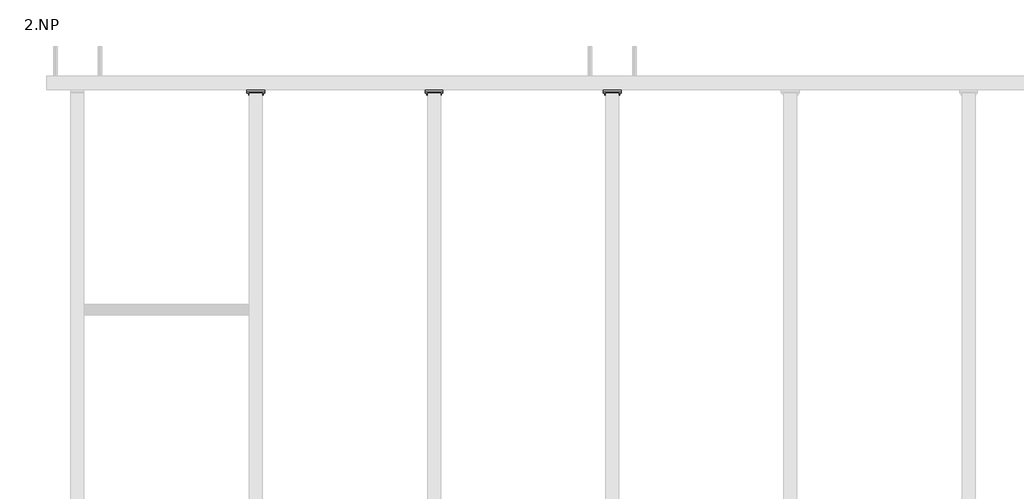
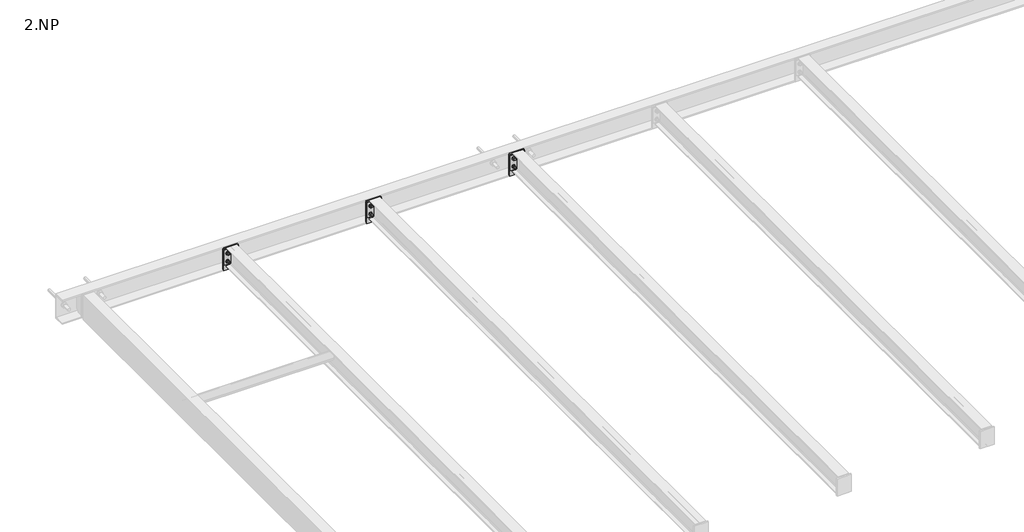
# One storey, part 9 of 18: 11 proxies.
"""IFC4 building model written with IfcOpenShell, lengths in millimetres."""

import ifcopenshell
import ifcopenshell.guid

model = None  # the IFC model being written
_history = None  # IfcOwnerHistory: only IFC2X3 demands one
_inside = {}  # id of a spatial element -> (the spatial element, [elements in it])
_under = {}  # id of a project, library or spatial element -> (it, [spatial elements below it])
_declared = {}  # id of a project -> (the project, [libraries it declares])
_typed = {}  # id of a type object -> (the type object, [elements of that type])
_made_of = {}  # id of a material, layer set ... -> (it, [elements and type objects made of it])


def new_model(schema):
    """Start an empty IFC model of exactly this schema.

    Asked for "IFC4X3", IfcOpenShell would pick the latest addendum, in which some entities
    have other attributes; the version numbers below select the first issue.
    IFC2X3 requires an IfcOwnerHistory on every rooted entity: one is made here for all.
    """
    global model, _history
    if schema == "IFC4X3":
        model = ifcopenshell.file(schema_version=(4, 3, 0, 0))
    else:
        model = ifcopenshell.file(schema=schema)
    _inside.clear()
    _under.clear()
    _declared.clear()
    _typed.clear()
    _made_of.clear()
    _history = None
    if model.schema == "IFC2X3":
        org = make("IfcOrganization", Name="unknown")
        user = make(
            "IfcPersonAndOrganization",
            ThePerson=make("IfcPerson", FamilyName="unknown"),
            TheOrganization=org,
        )
        app = make(
            "IfcApplication",
            ApplicationDeveloper=org,
            Version="unknown",
            ApplicationFullName="unknown",
            ApplicationIdentifier="unknown",
        )
        _history = make(
            "IfcOwnerHistory",
            OwningUser=user,
            OwningApplication=app,
            ChangeAction="ADDED",
            CreationDate=0,
        )
    return model


def make(cls, **values):
    """One entity of the class cls with the attributes given. An attribute that is None is left unset."""
    return model.create_entity(
        cls, **{name: value for name, value in values.items() if value is not None}
    )


def rooted(cls, **values):
    """An entity with a GlobalId (a new one), such as an element, a storey or a relation."""
    return make(cls, GlobalId=ifcopenshell.guid.new(), OwnerHistory=_history, **values)


def si_unit(unit_type, name, prefix=None):
    """IfcSIUnit, for example si_unit("LENGTHUNIT", "METRE", prefix="MILLI")."""
    return make("IfcSIUnit", UnitType=unit_type, Prefix=prefix, Name=name)


def assignment(units):
    """IfcUnitAssignment: the units of a project."""
    return None if units is None else make("IfcUnitAssignment", Units=units)


def point(xyz):
    """IfcCartesianPoint."""
    return None if xyz is None else make("IfcCartesianPoint", Coordinates=xyz)


def direction(xyz):
    """IfcDirection."""
    return None if xyz is None else make("IfcDirection", DirectionRatios=xyz)


def frame(location, z_axis=None, x_axis=None):
    """IfcAxis2Placement3D, a coordinate frame: its origin and axes. An axis left out is left unset."""
    return make(
        "IfcAxis2Placement3D",
        Location=point(location),
        Axis=direction(z_axis),
        RefDirection=direction(x_axis),
    )


def frame_2d(location, x_axis=None):
    """IfcAxis2Placement2D, a coordinate frame in the plane: its origin and x axis."""
    return make(
        "IfcAxis2Placement2D", Location=point(location), RefDirection=direction(x_axis)
    )


def origin():
    """The frame at (0, 0, 0) with its axes left unset."""
    return frame((0.0, 0.0, 0.0))


def place(relative_to, where):
    """IfcLocalPlacement: puts the frame where relative to a parent placement (None: the world)."""
    return make(
        "IfcLocalPlacement", PlacementRelTo=relative_to, RelativePlacement=where
    )


def context(
    kind, dimensions, precision=None, world=None, true_north=None, identifier=None
):
    """IfcGeometricRepresentationContext, for example the 3D "Model" context."""
    return make(
        "IfcGeometricRepresentationContext",
        ContextIdentifier=identifier,
        ContextType=kind,
        CoordinateSpaceDimension=dimensions,
        Precision=precision,
        WorldCoordinateSystem=world,
        TrueNorth=true_north,
    )


def project(units=None, contexts=None):
    """IfcProject with its units and contexts."""
    return rooted(
        "IfcProject",
        Name="project",
        RepresentationContexts=contexts,
        UnitsInContext=assignment(units),
    )


def spatial(cls, under=None, at=None, **own):
    """A site, building, storey or space (cls), placed at a placement, below another one or the project."""
    s = rooted(cls, ObjectPlacement=at, **own)
    if under is not None:
        _under.setdefault(under.id(), (under, []))[1].append(s)
    return s


def polyline(points):
    """IfcPolyline through the points."""
    return make("IfcPolyline", Points=[point(p) for p in points])


def circle_curve(where, radius):
    """IfcCircle in the frame where."""
    return make("IfcCircle", Position=where, Radius=radius)


def trimmed(basis, trim1, trim2, sense, master):
    """IfcTrimmedCurve: the piece of a basis curve between two trims."""
    return make(
        "IfcTrimmedCurve",
        BasisCurve=basis,
        Trim1=trim1,
        Trim2=trim2,
        SenseAgreement=sense,
        MasterRepresentation=master,
    )


def segment(curve, same_sense, transition):
    """IfcCompositeCurveSegment."""
    return make(
        "IfcCompositeCurveSegment",
        Transition=transition,
        SameSense=same_sense,
        ParentCurve=curve,
    )


def composite_curve(segments, self_intersect=None):
    """IfcCompositeCurve: segments joined end to end."""
    return make("IfcCompositeCurve", Segments=segments, SelfIntersect=self_intersect)


def outline(outer, holes=None, kind="AREA"):
    """IfcArbitraryClosedProfileDef: a profile drawn as a closed curve; with holes, ...WithVoids."""
    if holes is None:
        return make("IfcArbitraryClosedProfileDef", ProfileType=kind, OuterCurve=outer)
    return make(
        "IfcArbitraryProfileDefWithVoids",
        ProfileType=kind,
        OuterCurve=outer,
        InnerCurves=holes,
    )


def extrude(swept, where, along, depth):
    """IfcExtrudedAreaSolid: the profile swept, set in the frame where, extruded along a direction by depth."""
    return make(
        "IfcExtrudedAreaSolid",
        SweptArea=swept,
        Position=where,
        ExtrudedDirection=direction(along),
        Depth=depth,
    )


def shape(context_of_items, identifier, shape_type, items):
    """IfcShapeRepresentation: the items that make up one representation, for example the "Body"."""
    return make(
        "IfcShapeRepresentation",
        ContextOfItems=context_of_items,
        RepresentationIdentifier=identifier,
        RepresentationType=shape_type,
        Items=items,
    )


def made_of(thing, what):
    """Note that an element or type object is made of a material, layer set ...; save() writes the relation."""
    if what is not None:
        _made_of.setdefault(what.id(), (what, []))[1].append(thing)
    return thing


def element(
    cls,
    number,
    at=None,
    inside=None,
    cuts=None,
    type_object=None,
    material=None,
    context=None,
    identifier="Body",
    shape_type=None,
    held_by="IfcProductDefinitionShape",
    body=None,
    shapes=None,
    **own,
):
    """One element of the class cls, such as IfcWall. Its Tag is "e" and its number.

    at: its placement. inside: the storey or other place that contains it. cuts: it is an
    opening in that element (IfcRelVoidsElement). A single representation is given by context,
    identifier, shape_type and body (its items); several are given by shapes. held_by: the class
    of the entity that holds the representations. save() writes the other relations.
    """
    e = rooted(cls, Tag="e%d" % number, ObjectPlacement=at, **own)
    if body is not None:
        shapes = [shape(context, identifier, shape_type, body)]
    if shapes is not None:
        e.Representation = make(held_by, Representations=shapes)
    if inside is not None:
        _inside.setdefault(inside.id(), (inside, []))[1].append(e)
    if cuts is not None:
        rooted(
            "IfcRelVoidsElement", RelatingBuildingElement=cuts, RelatedOpeningElement=e
        )
    if type_object is not None:
        _typed.setdefault(type_object.id(), (type_object, []))[1].append(e)
    return made_of(e, material)


def aggregate(whole, parts):
    """IfcRelAggregates: a whole, such as a stair, and the parts it consists of."""
    return rooted("IfcRelAggregates", RelatingObject=whole, RelatedObjects=parts)


def save(model, path):
    """Write the relations noted so far, then the file.

    IfcRelAggregates (storeys below a building ...), IfcRelContainedInSpatialStructure (elements
    in a storey), IfcRelDefinesByType, IfcRelAssociatesMaterial and IfcRelDeclares: one each for
    every whole, place, type object, material and project.
    """
    for whole, parts in _under.values():
        aggregate(whole, parts)
    for where, things in _inside.values():
        rooted(
            "IfcRelContainedInSpatialStructure",
            RelatedElements=things,
            RelatingStructure=where,
        )
    for kind, things in _typed.values():
        rooted("IfcRelDefinesByType", RelatedObjects=things, RelatingType=kind)
    for what, things in _made_of.values():
        rooted("IfcRelAssociatesMaterial", RelatedObjects=things, RelatingMaterial=what)
    for by, libraries in _declared.values():
        rooted("IfcRelDeclares", RelatingContext=by, RelatedDefinitions=libraries)
    model.write(path)


model = new_model("IFC4")

# Units and contexts
model_context = context("Model", 3, world=origin())
ifc_project = project(units=[si_unit("LENGTHUNIT", "METRE", prefix="MILLI")], contexts=[model_context])

# Site, building, storey
site = spatial("IfcSite", under=ifc_project)
building = spatial("IfcBuilding", under=site)
storey = spatial("IfcBuildingStorey", under=building, Name="2.NP", Elevation=3000.0)

# Proxies
placement = place(None, origin())
element("IfcBuildingElementProxy", 1, Name="PLECH", ObjectType="PLECH", at=placement, inside=storey, context=model_context, shape_type="SweptSolid", body=[
    extrude(outline(polyline([(3000.0, 3775.0), (3100.0, 3775.0), (3100.0, 3767.0), (3000.0, 3767.0), (3000.0, 3775.0)])), frame((0.0, 0.0, 3175.0), z_axis=(0.0, 0.0, 1.0), x_axis=(1.0, 0.0, 0.0)), (0.0, 0.0, 1.0), 110.0),
])
element("IfcBuildingElementProxy", 2, Name="PLECH", ObjectType="PLECH", at=placement, inside=storey, context=model_context, shape_type="SweptSolid", body=[
    extrude(outline(polyline([(2000.0, 3775.0), (2100.0, 3775.0), (2100.0, 3767.0), (2000.0, 3767.0), (2000.0, 3775.0)])), frame((0.0, 0.0, 3175.0), z_axis=(0.0, 0.0, 1.0), x_axis=(1.0, 0.0, 0.0)), (0.0, 0.0, 1.0), 110.0),
])
element("IfcBuildingElementProxy", 3, Name="PLECH", ObjectType="PLECH", at=placement, inside=storey, context=model_context, shape_type="SweptSolid", body=[
    extrude(outline(polyline([(1000.0, 3775.0), (1100.0, 3775.0), (1100.0, 3767.0), (1000.0, 3767.0), (1000.0, 3775.0)])), frame((0.0, 0.0, 3175.0), z_axis=(0.0, 0.0, 1.0), x_axis=(1.0, 0.0, 0.0)), (0.0, 0.0, 1.0), 110.0),
])
element("IfcBuildingElementProxy", 4, Name="PLECH", ObjectType="PLECH", at=placement, inside=storey, context=model_context, shape_type="SweptSolid", body=[
    extrude(outline(polyline([(3000.0, 3785.0), (3100.0, 3785.0), (3100.0, 3775.0), (3000.0, 3775.0), (3000.0, 3785.0)])), frame((0.0, 0.0, 3128.0), z_axis=(0.0, 0.0, 1.0), x_axis=(1.0, 0.0, 0.0)), (0.0, 0.0, 1.0), 164.0),
])
element("IfcBuildingElementProxy", 5, Name="PLECH", ObjectType="PLECH", at=placement, inside=storey, context=model_context, shape_type="SweptSolid", body=[
    extrude(outline(polyline([(2000.0, 3785.0), (2100.0, 3785.0), (2100.0, 3775.0), (2000.0, 3775.0), (2000.0, 3785.0)])), frame((0.0, 0.0, 3128.0), z_axis=(0.0, 0.0, 1.0), x_axis=(1.0, 0.0, 0.0)), (0.0, 0.0, 1.0), 164.0),
])
element("IfcBuildingElementProxy", 6, Name="PLECH", ObjectType="PLECH", at=placement, inside=storey, context=model_context, shape_type="SweptSolid", body=[
    extrude(outline(composite_curve([segment(polyline([(3785.0, 3289.5), (3834.5, 3289.5)]), True, "CONTINUOUS"), segment(trimmed(circle_curve(frame_2d((3854.5, 3289.5)), 20.0), [point((3834.5, 3289.5))], [point((3854.5, 3269.5))], True, "CARTESIAN"), True, "CONTINUOUS"), segment(polyline([(3854.5, 3269.5), (3854.5, 3150.5)]), True, "CONTINUOUS"), segment(trimmed(circle_curve(frame_2d((3854.5, 3130.5)), 20.0), [point((3854.5, 3150.5))], [point((3834.5, 3130.5))], True, "CARTESIAN"), True, "CONTINUOUS"), segment(polyline([(3834.5, 3130.5), (3785.0, 3130.5), (3785.0, 3289.5)]), True, "CONTINUOUS")], self_intersect=False)), frame((2047.0, 0.0, 0.0), z_axis=(1.0, 0.0, 0.0), x_axis=(0.0, 1.0, 0.0)), (0.0, 0.0, 1.0), 6.0),
])
element("IfcBuildingElementProxy", 7, Name="PLECH", ObjectType="PLECH", at=placement, inside=storey, context=model_context, shape_type="SweptSolid", body=[
    extrude(outline(polyline([(1000.0, 3785.0), (1100.0, 3785.0), (1100.0, 3775.0), (1000.0, 3775.0), (1000.0, 3785.0)])), frame((0.0, 0.0, 3128.0), z_axis=(0.0, 0.0, 1.0), x_axis=(1.0, 0.0, 0.0)), (0.0, 0.0, 1.0), 164.0),
])
element("IfcBuildingElementProxy", 8, Name="PLECH", ObjectType="PLECH", at=placement, inside=storey, context=model_context, shape_type="SweptSolid", body=[
    extrude(outline(composite_curve([segment(polyline([(3785.0, 3289.5), (3834.5, 3289.5)]), True, "CONTINUOUS"), segment(trimmed(circle_curve(frame_2d((3854.5, 3289.5)), 20.0), [point((3834.5, 3289.5))], [point((3854.5, 3269.5))], True, "CARTESIAN"), True, "CONTINUOUS"), segment(polyline([(3854.5, 3269.5), (3854.5, 3150.5)]), True, "CONTINUOUS"), segment(trimmed(circle_curve(frame_2d((3854.5, 3130.5)), 20.0), [point((3854.5, 3150.5))], [point((3834.5, 3130.5))], True, "CARTESIAN"), True, "CONTINUOUS"), segment(polyline([(3834.5, 3130.5), (3785.0, 3130.5), (3785.0, 3289.5)]), True, "CONTINUOUS")], self_intersect=False)), frame((1047.0, 0.0, 0.0), z_axis=(1.0, 0.0, 0.0), x_axis=(0.0, 1.0, 0.0)), (0.0, 0.0, 1.0), 6.0),
])
element("IfcBuildingElementProxy", 9, Name="Bolt assembly", ObjectType="Bolt assembly", at=placement, inside=storey, context=model_context, shape_type="SweptSolid", body=[
    extrude(outline(composite_curve([segment(trimmed(circle_curve(frame_2d((3260.0, 3020.0)), 6.5), [point((3260.0, 3026.5))], [point((3260.0, 3013.5))], False, "CARTESIAN"), True, "CONTINUOUS"), segment(trimmed(circle_curve(frame_2d((3260.0, 3020.0)), 6.5), [point((3260.0, 3013.5))], [point((3260.0, 3026.5))], False, "CARTESIAN"), True, "CONTINUOUS")], self_intersect=False)), frame((0.0, 3774.9, 0.0), z_axis=(0.0, 1.0, 0.0), x_axis=(0.0, 0.0, 1.0)), (0.0, 0.0, 1.0), 10.0),
    extrude(outline(polyline([(3260.0, 3030.9696551), (3269.5, 3025.4848276), (3269.5, 3014.5151724), (3260.0, 3009.0303449), (3250.5, 3014.5151724), (3250.5, 3025.4848276), (3260.0, 3030.9696551)])), frame((0.0, 3787.5, 0.0), z_axis=(0.0, 1.0, 0.0), x_axis=(0.0, 0.0, 1.0)), (0.0, 0.0, 1.0), 7.5),
    extrude(outline(composite_curve([segment(trimmed(circle_curve(frame_2d((3260.0, 3020.0)), 6.0), [point((3260.0, 3026.0))], [point((3260.0, 3014.0))], False, "CARTESIAN"), True, "CONTINUOUS"), segment(trimmed(circle_curve(frame_2d((3260.0, 3020.0)), 6.0), [point((3260.0, 3014.0))], [point((3260.0, 3026.0))], False, "CARTESIAN"), True, "CONTINUOUS")], self_intersect=False)), frame((0.0, 3747.5, 0.0), z_axis=(0.0, 1.0, 0.0), x_axis=(0.0, 0.0, 1.0)), (0.0, 0.0, 1.0), 40.0),
    extrude(outline(composite_curve([segment(trimmed(circle_curve(frame_2d((3260.0, 3020.0)), 12.0), [point((3260.0, 3032.0))], [point((3260.0, 3008.0))], False, "CARTESIAN"), True, "CONTINUOUS"), segment(trimmed(circle_curve(frame_2d((3260.0, 3020.0)), 12.0), [point((3260.0, 3008.0))], [point((3260.0, 3032.0))], False, "CARTESIAN"), True, "CONTINUOUS")], self_intersect=False)), frame((0.0, 3785.0, 0.0), z_axis=(0.0, 1.0, 0.0), x_axis=(0.0, 0.0, 1.0)), (0.0, 0.0, 1.0), 2.5),
    extrude(outline(composite_curve([segment(trimmed(circle_curve(frame_2d((3260.0, 3020.0)), 12.0), [point((3260.0, 3032.0))], [point((3260.0, 3008.0))], False, "CARTESIAN"), True, "CONTINUOUS"), segment(trimmed(circle_curve(frame_2d((3260.0, 3020.0)), 12.0), [point((3260.0, 3008.0))], [point((3260.0, 3032.0))], False, "CARTESIAN"), True, "CONTINUOUS")], self_intersect=False)), frame((0.0, 3764.5, 0.0), z_axis=(0.0, 1.0, 0.0), x_axis=(0.0, 0.0, 1.0)), (0.0, 0.0, 1.0), 2.5),
    extrude(outline(polyline([(3260.0, 3030.9696551), (3269.5, 3025.4848276), (3269.5, 3014.5151724), (3260.0, 3009.0303449), (3250.5, 3014.5151724), (3250.5, 3025.4848276), (3260.0, 3030.9696551)])), frame((0.0, 3754.5, 0.0), z_axis=(0.0, 1.0, 0.0), x_axis=(0.0, 0.0, 1.0)), (0.0, 0.0, 1.0), 10.0),
    extrude(outline(composite_curve([segment(trimmed(circle_curve(frame_2d((3260.0, 3020.0)), 6.5), [point((3260.0, 3026.5))], [point((3260.0, 3013.5))], False, "CARTESIAN"), True, "CONTINUOUS"), segment(trimmed(circle_curve(frame_2d((3260.0, 3020.0)), 6.5), [point((3260.0, 3013.5))], [point((3260.0, 3026.5))], False, "CARTESIAN"), True, "CONTINUOUS")], self_intersect=False)), frame((0.0, 3767.0, 0.0), z_axis=(0.0, 1.0, 0.0), x_axis=(0.0, 0.0, 1.0)), (0.0, 0.0, 1.0), 8.1),
    extrude(outline(composite_curve([segment(trimmed(circle_curve(frame_2d((3260.0, 3080.0)), 6.5), [point((3260.0, 3086.5))], [point((3260.0, 3073.5))], False, "CARTESIAN"), True, "CONTINUOUS"), segment(trimmed(circle_curve(frame_2d((3260.0, 3080.0)), 6.5), [point((3260.0, 3073.5))], [point((3260.0, 3086.5))], False, "CARTESIAN"), True, "CONTINUOUS")], self_intersect=False)), frame((0.0, 3774.9, 0.0), z_axis=(0.0, 1.0, 0.0), x_axis=(0.0, 0.0, 1.0)), (0.0, 0.0, 1.0), 10.0),
    extrude(outline(polyline([(3260.0, 3090.9696551), (3269.5, 3085.4848276), (3269.5, 3074.5151724), (3260.0, 3069.0303449), (3250.5, 3074.5151724), (3250.5, 3085.4848276), (3260.0, 3090.9696551)])), frame((0.0, 3787.5, 0.0), z_axis=(0.0, 1.0, 0.0), x_axis=(0.0, 0.0, 1.0)), (0.0, 0.0, 1.0), 7.5),
    extrude(outline(composite_curve([segment(trimmed(circle_curve(frame_2d((3260.0, 3080.0)), 6.0), [point((3260.0, 3086.0))], [point((3260.0, 3074.0))], False, "CARTESIAN"), True, "CONTINUOUS"), segment(trimmed(circle_curve(frame_2d((3260.0, 3080.0)), 6.0), [point((3260.0, 3074.0))], [point((3260.0, 3086.0))], False, "CARTESIAN"), True, "CONTINUOUS")], self_intersect=False)), frame((0.0, 3747.5, 0.0), z_axis=(0.0, 1.0, 0.0), x_axis=(0.0, 0.0, 1.0)), (0.0, 0.0, 1.0), 40.0),
    extrude(outline(composite_curve([segment(trimmed(circle_curve(frame_2d((3260.0, 3080.0)), 12.0), [point((3260.0, 3092.0))], [point((3260.0, 3068.0))], False, "CARTESIAN"), True, "CONTINUOUS"), segment(trimmed(circle_curve(frame_2d((3260.0, 3080.0)), 12.0), [point((3260.0, 3068.0))], [point((3260.0, 3092.0))], False, "CARTESIAN"), True, "CONTINUOUS")], self_intersect=False)), frame((0.0, 3785.0, 0.0), z_axis=(0.0, 1.0, 0.0), x_axis=(0.0, 0.0, 1.0)), (0.0, 0.0, 1.0), 2.5),
    extrude(outline(composite_curve([segment(trimmed(circle_curve(frame_2d((3260.0, 3080.0)), 12.0), [point((3260.0, 3092.0))], [point((3260.0, 3068.0))], False, "CARTESIAN"), True, "CONTINUOUS"), segment(trimmed(circle_curve(frame_2d((3260.0, 3080.0)), 12.0), [point((3260.0, 3068.0))], [point((3260.0, 3092.0))], False, "CARTESIAN"), True, "CONTINUOUS")], self_intersect=False)), frame((0.0, 3764.5, 0.0), z_axis=(0.0, 1.0, 0.0), x_axis=(0.0, 0.0, 1.0)), (0.0, 0.0, 1.0), 2.5),
    extrude(outline(polyline([(3260.0, 3090.9696551), (3269.5, 3085.4848276), (3269.5, 3074.5151724), (3260.0, 3069.0303449), (3250.5, 3074.5151724), (3250.5, 3085.4848276), (3260.0, 3090.9696551)])), frame((0.0, 3754.5, 0.0), z_axis=(0.0, 1.0, 0.0), x_axis=(0.0, 0.0, 1.0)), (0.0, 0.0, 1.0), 10.0),
    extrude(outline(composite_curve([segment(trimmed(circle_curve(frame_2d((3260.0, 3080.0)), 6.5), [point((3260.0, 3086.5))], [point((3260.0, 3073.5))], False, "CARTESIAN"), True, "CONTINUOUS"), segment(trimmed(circle_curve(frame_2d((3260.0, 3080.0)), 6.5), [point((3260.0, 3073.5))], [point((3260.0, 3086.5))], False, "CARTESIAN"), True, "CONTINUOUS")], self_intersect=False)), frame((0.0, 3767.0, 0.0), z_axis=(0.0, 1.0, 0.0), x_axis=(0.0, 0.0, 1.0)), (0.0, 0.0, 1.0), 8.1),
    extrude(outline(composite_curve([segment(trimmed(circle_curve(frame_2d((3200.0, 3020.0)), 6.5), [point((3200.0, 3026.5))], [point((3200.0, 3013.5))], False, "CARTESIAN"), True, "CONTINUOUS"), segment(trimmed(circle_curve(frame_2d((3200.0, 3020.0)), 6.5), [point((3200.0, 3013.5))], [point((3200.0, 3026.5))], False, "CARTESIAN"), True, "CONTINUOUS")], self_intersect=False)), frame((0.0, 3774.9, 0.0), z_axis=(0.0, 1.0, 0.0), x_axis=(0.0, 0.0, 1.0)), (0.0, 0.0, 1.0), 10.0),
    extrude(outline(polyline([(3200.0, 3030.9696551), (3209.5, 3025.4848276), (3209.5, 3014.5151724), (3200.0, 3009.0303449), (3190.5, 3014.5151724), (3190.5, 3025.4848276), (3200.0, 3030.9696551)])), frame((0.0, 3787.5, 0.0), z_axis=(0.0, 1.0, 0.0), x_axis=(0.0, 0.0, 1.0)), (0.0, 0.0, 1.0), 7.5),
    extrude(outline(composite_curve([segment(trimmed(circle_curve(frame_2d((3200.0, 3020.0)), 6.0), [point((3200.0, 3026.0))], [point((3200.0, 3014.0))], False, "CARTESIAN"), True, "CONTINUOUS"), segment(trimmed(circle_curve(frame_2d((3200.0, 3020.0)), 6.0), [point((3200.0, 3014.0))], [point((3200.0, 3026.0))], False, "CARTESIAN"), True, "CONTINUOUS")], self_intersect=False)), frame((0.0, 3747.5, 0.0), z_axis=(0.0, 1.0, 0.0), x_axis=(0.0, 0.0, 1.0)), (0.0, 0.0, 1.0), 40.0),
    extrude(outline(composite_curve([segment(trimmed(circle_curve(frame_2d((3200.0, 3020.0)), 12.0), [point((3200.0, 3032.0))], [point((3200.0, 3008.0))], False, "CARTESIAN"), True, "CONTINUOUS"), segment(trimmed(circle_curve(frame_2d((3200.0, 3020.0)), 12.0), [point((3200.0, 3008.0))], [point((3200.0, 3032.0))], False, "CARTESIAN"), True, "CONTINUOUS")], self_intersect=False)), frame((0.0, 3785.0, 0.0), z_axis=(0.0, 1.0, 0.0), x_axis=(0.0, 0.0, 1.0)), (0.0, 0.0, 1.0), 2.5),
    extrude(outline(composite_curve([segment(trimmed(circle_curve(frame_2d((3200.0, 3020.0)), 12.0), [point((3200.0, 3032.0))], [point((3200.0, 3008.0))], False, "CARTESIAN"), True, "CONTINUOUS"), segment(trimmed(circle_curve(frame_2d((3200.0, 3020.0)), 12.0), [point((3200.0, 3008.0))], [point((3200.0, 3032.0))], False, "CARTESIAN"), True, "CONTINUOUS")], self_intersect=False)), frame((0.0, 3764.5, 0.0), z_axis=(0.0, 1.0, 0.0), x_axis=(0.0, 0.0, 1.0)), (0.0, 0.0, 1.0), 2.5),
    extrude(outline(polyline([(3200.0, 3030.9696551), (3209.5, 3025.4848276), (3209.5, 3014.5151724), (3200.0, 3009.0303449), (3190.5, 3014.5151724), (3190.5, 3025.4848276), (3200.0, 3030.9696551)])), frame((0.0, 3754.5, 0.0), z_axis=(0.0, 1.0, 0.0), x_axis=(0.0, 0.0, 1.0)), (0.0, 0.0, 1.0), 10.0),
    extrude(outline(composite_curve([segment(trimmed(circle_curve(frame_2d((3200.0, 3020.0)), 6.5), [point((3200.0, 3026.5))], [point((3200.0, 3013.5))], False, "CARTESIAN"), True, "CONTINUOUS"), segment(trimmed(circle_curve(frame_2d((3200.0, 3020.0)), 6.5), [point((3200.0, 3013.5))], [point((3200.0, 3026.5))], False, "CARTESIAN"), True, "CONTINUOUS")], self_intersect=False)), frame((0.0, 3767.0, 0.0), z_axis=(0.0, 1.0, 0.0), x_axis=(0.0, 0.0, 1.0)), (0.0, 0.0, 1.0), 8.1),
    extrude(outline(composite_curve([segment(trimmed(circle_curve(frame_2d((3200.0, 3080.0)), 6.5), [point((3200.0, 3086.5))], [point((3200.0, 3073.5))], False, "CARTESIAN"), True, "CONTINUOUS"), segment(trimmed(circle_curve(frame_2d((3200.0, 3080.0)), 6.5), [point((3200.0, 3073.5))], [point((3200.0, 3086.5))], False, "CARTESIAN"), True, "CONTINUOUS")], self_intersect=False)), frame((0.0, 3774.9, 0.0), z_axis=(0.0, 1.0, 0.0), x_axis=(0.0, 0.0, 1.0)), (0.0, 0.0, 1.0), 10.0),
    extrude(outline(polyline([(3200.0, 3090.9696551), (3209.5, 3085.4848276), (3209.5, 3074.5151724), (3200.0, 3069.0303449), (3190.5, 3074.5151724), (3190.5, 3085.4848276), (3200.0, 3090.9696551)])), frame((0.0, 3787.5, 0.0), z_axis=(0.0, 1.0, 0.0), x_axis=(0.0, 0.0, 1.0)), (0.0, 0.0, 1.0), 7.5),
    extrude(outline(composite_curve([segment(trimmed(circle_curve(frame_2d((3200.0, 3080.0)), 6.0), [point((3200.0, 3086.0))], [point((3200.0, 3074.0))], False, "CARTESIAN"), True, "CONTINUOUS"), segment(trimmed(circle_curve(frame_2d((3200.0, 3080.0)), 6.0), [point((3200.0, 3074.0))], [point((3200.0, 3086.0))], False, "CARTESIAN"), True, "CONTINUOUS")], self_intersect=False)), frame((0.0, 3747.5, 0.0), z_axis=(0.0, 1.0, 0.0), x_axis=(0.0, 0.0, 1.0)), (0.0, 0.0, 1.0), 40.0),
    extrude(outline(composite_curve([segment(trimmed(circle_curve(frame_2d((3200.0, 3080.0)), 12.0), [point((3200.0, 3092.0))], [point((3200.0, 3068.0))], False, "CARTESIAN"), True, "CONTINUOUS"), segment(trimmed(circle_curve(frame_2d((3200.0, 3080.0)), 12.0), [point((3200.0, 3068.0))], [point((3200.0, 3092.0))], False, "CARTESIAN"), True, "CONTINUOUS")], self_intersect=False)), frame((0.0, 3785.0, 0.0), z_axis=(0.0, 1.0, 0.0), x_axis=(0.0, 0.0, 1.0)), (0.0, 0.0, 1.0), 2.5),
    extrude(outline(composite_curve([segment(trimmed(circle_curve(frame_2d((3200.0, 3080.0)), 12.0), [point((3200.0, 3092.0))], [point((3200.0, 3068.0))], False, "CARTESIAN"), True, "CONTINUOUS"), segment(trimmed(circle_curve(frame_2d((3200.0, 3080.0)), 12.0), [point((3200.0, 3068.0))], [point((3200.0, 3092.0))], False, "CARTESIAN"), True, "CONTINUOUS")], self_intersect=False)), frame((0.0, 3764.5, 0.0), z_axis=(0.0, 1.0, 0.0), x_axis=(0.0, 0.0, 1.0)), (0.0, 0.0, 1.0), 2.5),
    extrude(outline(polyline([(3200.0, 3090.9696551), (3209.5, 3085.4848276), (3209.5, 3074.5151724), (3200.0, 3069.0303449), (3190.5, 3074.5151724), (3190.5, 3085.4848276), (3200.0, 3090.9696551)])), frame((0.0, 3754.5, 0.0), z_axis=(0.0, 1.0, 0.0), x_axis=(0.0, 0.0, 1.0)), (0.0, 0.0, 1.0), 10.0),
    extrude(outline(composite_curve([segment(trimmed(circle_curve(frame_2d((3200.0, 3080.0)), 6.5), [point((3200.0, 3086.5))], [point((3200.0, 3073.5))], False, "CARTESIAN"), True, "CONTINUOUS"), segment(trimmed(circle_curve(frame_2d((3200.0, 3080.0)), 6.5), [point((3200.0, 3073.5))], [point((3200.0, 3086.5))], False, "CARTESIAN"), True, "CONTINUOUS")], self_intersect=False)), frame((0.0, 3767.0, 0.0), z_axis=(0.0, 1.0, 0.0), x_axis=(0.0, 0.0, 1.0)), (0.0, 0.0, 1.0), 8.1),
])
element("IfcBuildingElementProxy", 10, Name="Bolt assembly", ObjectType="Bolt assembly", at=placement, inside=storey, context=model_context, shape_type="SweptSolid", body=[
    extrude(outline(composite_curve([segment(trimmed(circle_curve(frame_2d((3260.0, 2020.0)), 6.5), [point((3260.0, 2026.5))], [point((3260.0, 2013.5))], False, "CARTESIAN"), True, "CONTINUOUS"), segment(trimmed(circle_curve(frame_2d((3260.0, 2020.0)), 6.5), [point((3260.0, 2013.5))], [point((3260.0, 2026.5))], False, "CARTESIAN"), True, "CONTINUOUS")], self_intersect=False)), frame((0.0, 3774.9, 0.0), z_axis=(0.0, 1.0, 0.0), x_axis=(0.0, 0.0, 1.0)), (0.0, 0.0, 1.0), 10.0),
    extrude(outline(polyline([(3260.0, 2030.9696551), (3269.5, 2025.4848276), (3269.5, 2014.5151724), (3260.0, 2009.0303449), (3250.5, 2014.5151724), (3250.5, 2025.4848276), (3260.0, 2030.9696551)])), frame((0.0, 3787.5, 0.0), z_axis=(0.0, 1.0, 0.0), x_axis=(0.0, 0.0, 1.0)), (0.0, 0.0, 1.0), 7.5),
    extrude(outline(composite_curve([segment(trimmed(circle_curve(frame_2d((3260.0, 2020.0)), 6.0), [point((3260.0, 2026.0))], [point((3260.0, 2014.0))], False, "CARTESIAN"), True, "CONTINUOUS"), segment(trimmed(circle_curve(frame_2d((3260.0, 2020.0)), 6.0), [point((3260.0, 2014.0))], [point((3260.0, 2026.0))], False, "CARTESIAN"), True, "CONTINUOUS")], self_intersect=False)), frame((0.0, 3747.5, 0.0), z_axis=(0.0, 1.0, 0.0), x_axis=(0.0, 0.0, 1.0)), (0.0, 0.0, 1.0), 40.0),
    extrude(outline(composite_curve([segment(trimmed(circle_curve(frame_2d((3260.0, 2020.0)), 12.0), [point((3260.0, 2032.0))], [point((3260.0, 2008.0))], False, "CARTESIAN"), True, "CONTINUOUS"), segment(trimmed(circle_curve(frame_2d((3260.0, 2020.0)), 12.0), [point((3260.0, 2008.0))], [point((3260.0, 2032.0))], False, "CARTESIAN"), True, "CONTINUOUS")], self_intersect=False)), frame((0.0, 3785.0, 0.0), z_axis=(0.0, 1.0, 0.0), x_axis=(0.0, 0.0, 1.0)), (0.0, 0.0, 1.0), 2.5),
    extrude(outline(composite_curve([segment(trimmed(circle_curve(frame_2d((3260.0, 2020.0)), 12.0), [point((3260.0, 2032.0))], [point((3260.0, 2008.0))], False, "CARTESIAN"), True, "CONTINUOUS"), segment(trimmed(circle_curve(frame_2d((3260.0, 2020.0)), 12.0), [point((3260.0, 2008.0))], [point((3260.0, 2032.0))], False, "CARTESIAN"), True, "CONTINUOUS")], self_intersect=False)), frame((0.0, 3764.5, 0.0), z_axis=(0.0, 1.0, 0.0), x_axis=(0.0, 0.0, 1.0)), (0.0, 0.0, 1.0), 2.5),
    extrude(outline(polyline([(3260.0, 2030.9696551), (3269.5, 2025.4848276), (3269.5, 2014.5151724), (3260.0, 2009.0303449), (3250.5, 2014.5151724), (3250.5, 2025.4848276), (3260.0, 2030.9696551)])), frame((0.0, 3754.5, 0.0), z_axis=(0.0, 1.0, 0.0), x_axis=(0.0, 0.0, 1.0)), (0.0, 0.0, 1.0), 10.0),
    extrude(outline(composite_curve([segment(trimmed(circle_curve(frame_2d((3260.0, 2020.0)), 6.5), [point((3260.0, 2026.5))], [point((3260.0, 2013.5))], False, "CARTESIAN"), True, "CONTINUOUS"), segment(trimmed(circle_curve(frame_2d((3260.0, 2020.0)), 6.5), [point((3260.0, 2013.5))], [point((3260.0, 2026.5))], False, "CARTESIAN"), True, "CONTINUOUS")], self_intersect=False)), frame((0.0, 3767.0, 0.0), z_axis=(0.0, 1.0, 0.0), x_axis=(0.0, 0.0, 1.0)), (0.0, 0.0, 1.0), 8.1),
    extrude(outline(composite_curve([segment(trimmed(circle_curve(frame_2d((3260.0, 2080.0)), 6.5), [point((3260.0, 2086.5))], [point((3260.0, 2073.5))], False, "CARTESIAN"), True, "CONTINUOUS"), segment(trimmed(circle_curve(frame_2d((3260.0, 2080.0)), 6.5), [point((3260.0, 2073.5))], [point((3260.0, 2086.5))], False, "CARTESIAN"), True, "CONTINUOUS")], self_intersect=False)), frame((0.0, 3774.9, 0.0), z_axis=(0.0, 1.0, 0.0), x_axis=(0.0, 0.0, 1.0)), (0.0, 0.0, 1.0), 10.0),
    extrude(outline(polyline([(3260.0, 2090.9696551), (3269.5, 2085.4848276), (3269.5, 2074.5151724), (3260.0, 2069.0303449), (3250.5, 2074.5151724), (3250.5, 2085.4848276), (3260.0, 2090.9696551)])), frame((0.0, 3787.5, 0.0), z_axis=(0.0, 1.0, 0.0), x_axis=(0.0, 0.0, 1.0)), (0.0, 0.0, 1.0), 7.5),
    extrude(outline(composite_curve([segment(trimmed(circle_curve(frame_2d((3260.0, 2080.0)), 6.0), [point((3260.0, 2086.0))], [point((3260.0, 2074.0))], False, "CARTESIAN"), True, "CONTINUOUS"), segment(trimmed(circle_curve(frame_2d((3260.0, 2080.0)), 6.0), [point((3260.0, 2074.0))], [point((3260.0, 2086.0))], False, "CARTESIAN"), True, "CONTINUOUS")], self_intersect=False)), frame((0.0, 3747.5, 0.0), z_axis=(0.0, 1.0, 0.0), x_axis=(0.0, 0.0, 1.0)), (0.0, 0.0, 1.0), 40.0),
    extrude(outline(composite_curve([segment(trimmed(circle_curve(frame_2d((3260.0, 2080.0)), 12.0), [point((3260.0, 2092.0))], [point((3260.0, 2068.0))], False, "CARTESIAN"), True, "CONTINUOUS"), segment(trimmed(circle_curve(frame_2d((3260.0, 2080.0)), 12.0), [point((3260.0, 2068.0))], [point((3260.0, 2092.0))], False, "CARTESIAN"), True, "CONTINUOUS")], self_intersect=False)), frame((0.0, 3785.0, 0.0), z_axis=(0.0, 1.0, 0.0), x_axis=(0.0, 0.0, 1.0)), (0.0, 0.0, 1.0), 2.5),
    extrude(outline(composite_curve([segment(trimmed(circle_curve(frame_2d((3260.0, 2080.0)), 12.0), [point((3260.0, 2092.0))], [point((3260.0, 2068.0))], False, "CARTESIAN"), True, "CONTINUOUS"), segment(trimmed(circle_curve(frame_2d((3260.0, 2080.0)), 12.0), [point((3260.0, 2068.0))], [point((3260.0, 2092.0))], False, "CARTESIAN"), True, "CONTINUOUS")], self_intersect=False)), frame((0.0, 3764.5, 0.0), z_axis=(0.0, 1.0, 0.0), x_axis=(0.0, 0.0, 1.0)), (0.0, 0.0, 1.0), 2.5),
    extrude(outline(polyline([(3260.0, 2090.9696551), (3269.5, 2085.4848276), (3269.5, 2074.5151724), (3260.0, 2069.0303449), (3250.5, 2074.5151724), (3250.5, 2085.4848276), (3260.0, 2090.9696551)])), frame((0.0, 3754.5, 0.0), z_axis=(0.0, 1.0, 0.0), x_axis=(0.0, 0.0, 1.0)), (0.0, 0.0, 1.0), 10.0),
    extrude(outline(composite_curve([segment(trimmed(circle_curve(frame_2d((3260.0, 2080.0)), 6.5), [point((3260.0, 2086.5))], [point((3260.0, 2073.5))], False, "CARTESIAN"), True, "CONTINUOUS"), segment(trimmed(circle_curve(frame_2d((3260.0, 2080.0)), 6.5), [point((3260.0, 2073.5))], [point((3260.0, 2086.5))], False, "CARTESIAN"), True, "CONTINUOUS")], self_intersect=False)), frame((0.0, 3767.0, 0.0), z_axis=(0.0, 1.0, 0.0), x_axis=(0.0, 0.0, 1.0)), (0.0, 0.0, 1.0), 8.1),
    extrude(outline(composite_curve([segment(trimmed(circle_curve(frame_2d((3200.0, 2020.0)), 6.5), [point((3200.0, 2026.5))], [point((3200.0, 2013.5))], False, "CARTESIAN"), True, "CONTINUOUS"), segment(trimmed(circle_curve(frame_2d((3200.0, 2020.0)), 6.5), [point((3200.0, 2013.5))], [point((3200.0, 2026.5))], False, "CARTESIAN"), True, "CONTINUOUS")], self_intersect=False)), frame((0.0, 3774.9, 0.0), z_axis=(0.0, 1.0, 0.0), x_axis=(0.0, 0.0, 1.0)), (0.0, 0.0, 1.0), 10.0),
    extrude(outline(polyline([(3200.0, 2030.9696551), (3209.5, 2025.4848276), (3209.5, 2014.5151724), (3200.0, 2009.0303449), (3190.5, 2014.5151724), (3190.5, 2025.4848276), (3200.0, 2030.9696551)])), frame((0.0, 3787.5, 0.0), z_axis=(0.0, 1.0, 0.0), x_axis=(0.0, 0.0, 1.0)), (0.0, 0.0, 1.0), 7.5),
    extrude(outline(composite_curve([segment(trimmed(circle_curve(frame_2d((3200.0, 2020.0)), 6.0), [point((3200.0, 2026.0))], [point((3200.0, 2014.0))], False, "CARTESIAN"), True, "CONTINUOUS"), segment(trimmed(circle_curve(frame_2d((3200.0, 2020.0)), 6.0), [point((3200.0, 2014.0))], [point((3200.0, 2026.0))], False, "CARTESIAN"), True, "CONTINUOUS")], self_intersect=False)), frame((0.0, 3747.5, 0.0), z_axis=(0.0, 1.0, 0.0), x_axis=(0.0, 0.0, 1.0)), (0.0, 0.0, 1.0), 40.0),
    extrude(outline(composite_curve([segment(trimmed(circle_curve(frame_2d((3200.0, 2020.0)), 12.0), [point((3200.0, 2032.0))], [point((3200.0, 2008.0))], False, "CARTESIAN"), True, "CONTINUOUS"), segment(trimmed(circle_curve(frame_2d((3200.0, 2020.0)), 12.0), [point((3200.0, 2008.0))], [point((3200.0, 2032.0))], False, "CARTESIAN"), True, "CONTINUOUS")], self_intersect=False)), frame((0.0, 3785.0, 0.0), z_axis=(0.0, 1.0, 0.0), x_axis=(0.0, 0.0, 1.0)), (0.0, 0.0, 1.0), 2.5),
    extrude(outline(composite_curve([segment(trimmed(circle_curve(frame_2d((3200.0, 2020.0)), 12.0), [point((3200.0, 2032.0))], [point((3200.0, 2008.0))], False, "CARTESIAN"), True, "CONTINUOUS"), segment(trimmed(circle_curve(frame_2d((3200.0, 2020.0)), 12.0), [point((3200.0, 2008.0))], [point((3200.0, 2032.0))], False, "CARTESIAN"), True, "CONTINUOUS")], self_intersect=False)), frame((0.0, 3764.5, 0.0), z_axis=(0.0, 1.0, 0.0), x_axis=(0.0, 0.0, 1.0)), (0.0, 0.0, 1.0), 2.5),
    extrude(outline(polyline([(3200.0, 2030.9696551), (3209.5, 2025.4848276), (3209.5, 2014.5151724), (3200.0, 2009.0303449), (3190.5, 2014.5151724), (3190.5, 2025.4848276), (3200.0, 2030.9696551)])), frame((0.0, 3754.5, 0.0), z_axis=(0.0, 1.0, 0.0), x_axis=(0.0, 0.0, 1.0)), (0.0, 0.0, 1.0), 10.0),
    extrude(outline(composite_curve([segment(trimmed(circle_curve(frame_2d((3200.0, 2020.0)), 6.5), [point((3200.0, 2026.5))], [point((3200.0, 2013.5))], False, "CARTESIAN"), True, "CONTINUOUS"), segment(trimmed(circle_curve(frame_2d((3200.0, 2020.0)), 6.5), [point((3200.0, 2013.5))], [point((3200.0, 2026.5))], False, "CARTESIAN"), True, "CONTINUOUS")], self_intersect=False)), frame((0.0, 3767.0, 0.0), z_axis=(0.0, 1.0, 0.0), x_axis=(0.0, 0.0, 1.0)), (0.0, 0.0, 1.0), 8.1),
    extrude(outline(composite_curve([segment(trimmed(circle_curve(frame_2d((3200.0, 2080.0)), 6.5), [point((3200.0, 2086.5))], [point((3200.0, 2073.5))], False, "CARTESIAN"), True, "CONTINUOUS"), segment(trimmed(circle_curve(frame_2d((3200.0, 2080.0)), 6.5), [point((3200.0, 2073.5))], [point((3200.0, 2086.5))], False, "CARTESIAN"), True, "CONTINUOUS")], self_intersect=False)), frame((0.0, 3774.9, 0.0), z_axis=(0.0, 1.0, 0.0), x_axis=(0.0, 0.0, 1.0)), (0.0, 0.0, 1.0), 10.0),
    extrude(outline(polyline([(3200.0, 2090.9696551), (3209.5, 2085.4848276), (3209.5, 2074.5151724), (3200.0, 2069.0303449), (3190.5, 2074.5151724), (3190.5, 2085.4848276), (3200.0, 2090.9696551)])), frame((0.0, 3787.5, 0.0), z_axis=(0.0, 1.0, 0.0), x_axis=(0.0, 0.0, 1.0)), (0.0, 0.0, 1.0), 7.5),
    extrude(outline(composite_curve([segment(trimmed(circle_curve(frame_2d((3200.0, 2080.0)), 6.0), [point((3200.0, 2086.0))], [point((3200.0, 2074.0))], False, "CARTESIAN"), True, "CONTINUOUS"), segment(trimmed(circle_curve(frame_2d((3200.0, 2080.0)), 6.0), [point((3200.0, 2074.0))], [point((3200.0, 2086.0))], False, "CARTESIAN"), True, "CONTINUOUS")], self_intersect=False)), frame((0.0, 3747.5, 0.0), z_axis=(0.0, 1.0, 0.0), x_axis=(0.0, 0.0, 1.0)), (0.0, 0.0, 1.0), 40.0),
    extrude(outline(composite_curve([segment(trimmed(circle_curve(frame_2d((3200.0, 2080.0)), 12.0), [point((3200.0, 2092.0))], [point((3200.0, 2068.0))], False, "CARTESIAN"), True, "CONTINUOUS"), segment(trimmed(circle_curve(frame_2d((3200.0, 2080.0)), 12.0), [point((3200.0, 2068.0))], [point((3200.0, 2092.0))], False, "CARTESIAN"), True, "CONTINUOUS")], self_intersect=False)), frame((0.0, 3785.0, 0.0), z_axis=(0.0, 1.0, 0.0), x_axis=(0.0, 0.0, 1.0)), (0.0, 0.0, 1.0), 2.5),
    extrude(outline(composite_curve([segment(trimmed(circle_curve(frame_2d((3200.0, 2080.0)), 12.0), [point((3200.0, 2092.0))], [point((3200.0, 2068.0))], False, "CARTESIAN"), True, "CONTINUOUS"), segment(trimmed(circle_curve(frame_2d((3200.0, 2080.0)), 12.0), [point((3200.0, 2068.0))], [point((3200.0, 2092.0))], False, "CARTESIAN"), True, "CONTINUOUS")], self_intersect=False)), frame((0.0, 3764.5, 0.0), z_axis=(0.0, 1.0, 0.0), x_axis=(0.0, 0.0, 1.0)), (0.0, 0.0, 1.0), 2.5),
    extrude(outline(polyline([(3200.0, 2090.9696551), (3209.5, 2085.4848276), (3209.5, 2074.5151724), (3200.0, 2069.0303449), (3190.5, 2074.5151724), (3190.5, 2085.4848276), (3200.0, 2090.9696551)])), frame((0.0, 3754.5, 0.0), z_axis=(0.0, 1.0, 0.0), x_axis=(0.0, 0.0, 1.0)), (0.0, 0.0, 1.0), 10.0),
    extrude(outline(composite_curve([segment(trimmed(circle_curve(frame_2d((3200.0, 2080.0)), 6.5), [point((3200.0, 2086.5))], [point((3200.0, 2073.5))], False, "CARTESIAN"), True, "CONTINUOUS"), segment(trimmed(circle_curve(frame_2d((3200.0, 2080.0)), 6.5), [point((3200.0, 2073.5))], [point((3200.0, 2086.5))], False, "CARTESIAN"), True, "CONTINUOUS")], self_intersect=False)), frame((0.0, 3767.0, 0.0), z_axis=(0.0, 1.0, 0.0), x_axis=(0.0, 0.0, 1.0)), (0.0, 0.0, 1.0), 8.1),
])
element("IfcBuildingElementProxy", 11, Name="Bolt assembly", ObjectType="Bolt assembly", at=placement, inside=storey, context=model_context, shape_type="SweptSolid", body=[
    extrude(outline(composite_curve([segment(trimmed(circle_curve(frame_2d((3260.0, 1020.0)), 6.5), [point((3260.0, 1026.5))], [point((3260.0, 1013.5))], False, "CARTESIAN"), True, "CONTINUOUS"), segment(trimmed(circle_curve(frame_2d((3260.0, 1020.0)), 6.5), [point((3260.0, 1013.5))], [point((3260.0, 1026.5))], False, "CARTESIAN"), True, "CONTINUOUS")], self_intersect=False)), frame((0.0, 3774.9, 0.0), z_axis=(0.0, 1.0, 0.0), x_axis=(0.0, 0.0, 1.0)), (0.0, 0.0, 1.0), 10.0),
    extrude(outline(polyline([(3260.0, 1030.9696551), (3269.5, 1025.4848276), (3269.5, 1014.5151724), (3260.0, 1009.0303449), (3250.5, 1014.5151724), (3250.5, 1025.4848276), (3260.0, 1030.9696551)])), frame((0.0, 3787.5, 0.0), z_axis=(0.0, 1.0, 0.0), x_axis=(0.0, 0.0, 1.0)), (0.0, 0.0, 1.0), 7.5),
    extrude(outline(composite_curve([segment(trimmed(circle_curve(frame_2d((3260.0, 1020.0)), 6.0), [point((3260.0, 1026.0))], [point((3260.0, 1014.0))], False, "CARTESIAN"), True, "CONTINUOUS"), segment(trimmed(circle_curve(frame_2d((3260.0, 1020.0)), 6.0), [point((3260.0, 1014.0))], [point((3260.0, 1026.0))], False, "CARTESIAN"), True, "CONTINUOUS")], self_intersect=False)), frame((0.0, 3747.5, 0.0), z_axis=(0.0, 1.0, 0.0), x_axis=(0.0, 0.0, 1.0)), (0.0, 0.0, 1.0), 40.0),
    extrude(outline(composite_curve([segment(trimmed(circle_curve(frame_2d((3260.0, 1020.0)), 12.0), [point((3260.0, 1032.0))], [point((3260.0, 1008.0))], False, "CARTESIAN"), True, "CONTINUOUS"), segment(trimmed(circle_curve(frame_2d((3260.0, 1020.0)), 12.0), [point((3260.0, 1008.0))], [point((3260.0, 1032.0))], False, "CARTESIAN"), True, "CONTINUOUS")], self_intersect=False)), frame((0.0, 3785.0, 0.0), z_axis=(0.0, 1.0, 0.0), x_axis=(0.0, 0.0, 1.0)), (0.0, 0.0, 1.0), 2.5),
    extrude(outline(composite_curve([segment(trimmed(circle_curve(frame_2d((3260.0, 1020.0)), 12.0), [point((3260.0, 1032.0))], [point((3260.0, 1008.0))], False, "CARTESIAN"), True, "CONTINUOUS"), segment(trimmed(circle_curve(frame_2d((3260.0, 1020.0)), 12.0), [point((3260.0, 1008.0))], [point((3260.0, 1032.0))], False, "CARTESIAN"), True, "CONTINUOUS")], self_intersect=False)), frame((0.0, 3764.5, 0.0), z_axis=(0.0, 1.0, 0.0), x_axis=(0.0, 0.0, 1.0)), (0.0, 0.0, 1.0), 2.5),
    extrude(outline(polyline([(3260.0, 1030.9696551), (3269.5, 1025.4848276), (3269.5, 1014.5151724), (3260.0, 1009.0303449), (3250.5, 1014.5151724), (3250.5, 1025.4848276), (3260.0, 1030.9696551)])), frame((0.0, 3754.5, 0.0), z_axis=(0.0, 1.0, 0.0), x_axis=(0.0, 0.0, 1.0)), (0.0, 0.0, 1.0), 10.0),
    extrude(outline(composite_curve([segment(trimmed(circle_curve(frame_2d((3260.0, 1020.0)), 6.5), [point((3260.0, 1026.5))], [point((3260.0, 1013.5))], False, "CARTESIAN"), True, "CONTINUOUS"), segment(trimmed(circle_curve(frame_2d((3260.0, 1020.0)), 6.5), [point((3260.0, 1013.5))], [point((3260.0, 1026.5))], False, "CARTESIAN"), True, "CONTINUOUS")], self_intersect=False)), frame((0.0, 3767.0, 0.0), z_axis=(0.0, 1.0, 0.0), x_axis=(0.0, 0.0, 1.0)), (0.0, 0.0, 1.0), 8.1),
    extrude(outline(composite_curve([segment(trimmed(circle_curve(frame_2d((3260.0, 1080.0)), 6.5), [point((3260.0, 1086.5))], [point((3260.0, 1073.5))], False, "CARTESIAN"), True, "CONTINUOUS"), segment(trimmed(circle_curve(frame_2d((3260.0, 1080.0)), 6.5), [point((3260.0, 1073.5))], [point((3260.0, 1086.5))], False, "CARTESIAN"), True, "CONTINUOUS")], self_intersect=False)), frame((0.0, 3774.9, 0.0), z_axis=(0.0, 1.0, 0.0), x_axis=(0.0, 0.0, 1.0)), (0.0, 0.0, 1.0), 10.0),
    extrude(outline(polyline([(3260.0, 1090.9696551), (3269.5, 1085.4848276), (3269.5, 1074.5151724), (3260.0, 1069.0303449), (3250.5, 1074.5151724), (3250.5, 1085.4848276), (3260.0, 1090.9696551)])), frame((0.0, 3787.5, 0.0), z_axis=(0.0, 1.0, 0.0), x_axis=(0.0, 0.0, 1.0)), (0.0, 0.0, 1.0), 7.5),
    extrude(outline(composite_curve([segment(trimmed(circle_curve(frame_2d((3260.0, 1080.0)), 6.0), [point((3260.0, 1086.0))], [point((3260.0, 1074.0))], False, "CARTESIAN"), True, "CONTINUOUS"), segment(trimmed(circle_curve(frame_2d((3260.0, 1080.0)), 6.0), [point((3260.0, 1074.0))], [point((3260.0, 1086.0))], False, "CARTESIAN"), True, "CONTINUOUS")], self_intersect=False)), frame((0.0, 3747.5, 0.0), z_axis=(0.0, 1.0, 0.0), x_axis=(0.0, 0.0, 1.0)), (0.0, 0.0, 1.0), 40.0),
    extrude(outline(composite_curve([segment(trimmed(circle_curve(frame_2d((3260.0, 1080.0)), 12.0), [point((3260.0, 1092.0))], [point((3260.0, 1068.0))], False, "CARTESIAN"), True, "CONTINUOUS"), segment(trimmed(circle_curve(frame_2d((3260.0, 1080.0)), 12.0), [point((3260.0, 1068.0))], [point((3260.0, 1092.0))], False, "CARTESIAN"), True, "CONTINUOUS")], self_intersect=False)), frame((0.0, 3785.0, 0.0), z_axis=(0.0, 1.0, 0.0), x_axis=(0.0, 0.0, 1.0)), (0.0, 0.0, 1.0), 2.5),
    extrude(outline(composite_curve([segment(trimmed(circle_curve(frame_2d((3260.0, 1080.0)), 12.0), [point((3260.0, 1092.0))], [point((3260.0, 1068.0))], False, "CARTESIAN"), True, "CONTINUOUS"), segment(trimmed(circle_curve(frame_2d((3260.0, 1080.0)), 12.0), [point((3260.0, 1068.0))], [point((3260.0, 1092.0))], False, "CARTESIAN"), True, "CONTINUOUS")], self_intersect=False)), frame((0.0, 3764.5, 0.0), z_axis=(0.0, 1.0, 0.0), x_axis=(0.0, 0.0, 1.0)), (0.0, 0.0, 1.0), 2.5),
    extrude(outline(polyline([(3260.0, 1090.9696551), (3269.5, 1085.4848276), (3269.5, 1074.5151724), (3260.0, 1069.0303449), (3250.5, 1074.5151724), (3250.5, 1085.4848276), (3260.0, 1090.9696551)])), frame((0.0, 3754.5, 0.0), z_axis=(0.0, 1.0, 0.0), x_axis=(0.0, 0.0, 1.0)), (0.0, 0.0, 1.0), 10.0),
    extrude(outline(composite_curve([segment(trimmed(circle_curve(frame_2d((3260.0, 1080.0)), 6.5), [point((3260.0, 1086.5))], [point((3260.0, 1073.5))], False, "CARTESIAN"), True, "CONTINUOUS"), segment(trimmed(circle_curve(frame_2d((3260.0, 1080.0)), 6.5), [point((3260.0, 1073.5))], [point((3260.0, 1086.5))], False, "CARTESIAN"), True, "CONTINUOUS")], self_intersect=False)), frame((0.0, 3767.0, 0.0), z_axis=(0.0, 1.0, 0.0), x_axis=(0.0, 0.0, 1.0)), (0.0, 0.0, 1.0), 8.1),
    extrude(outline(composite_curve([segment(trimmed(circle_curve(frame_2d((3200.0, 1020.0)), 6.5), [point((3200.0, 1026.5))], [point((3200.0, 1013.5))], False, "CARTESIAN"), True, "CONTINUOUS"), segment(trimmed(circle_curve(frame_2d((3200.0, 1020.0)), 6.5), [point((3200.0, 1013.5))], [point((3200.0, 1026.5))], False, "CARTESIAN"), True, "CONTINUOUS")], self_intersect=False)), frame((0.0, 3774.9, 0.0), z_axis=(0.0, 1.0, 0.0), x_axis=(0.0, 0.0, 1.0)), (0.0, 0.0, 1.0), 10.0),
    extrude(outline(polyline([(3200.0, 1030.9696551), (3209.5, 1025.4848276), (3209.5, 1014.5151724), (3200.0, 1009.0303449), (3190.5, 1014.5151724), (3190.5, 1025.4848276), (3200.0, 1030.9696551)])), frame((0.0, 3787.5, 0.0), z_axis=(0.0, 1.0, 0.0), x_axis=(0.0, 0.0, 1.0)), (0.0, 0.0, 1.0), 7.5),
    extrude(outline(composite_curve([segment(trimmed(circle_curve(frame_2d((3200.0, 1020.0)), 6.0), [point((3200.0, 1026.0))], [point((3200.0, 1014.0))], False, "CARTESIAN"), True, "CONTINUOUS"), segment(trimmed(circle_curve(frame_2d((3200.0, 1020.0)), 6.0), [point((3200.0, 1014.0))], [point((3200.0, 1026.0))], False, "CARTESIAN"), True, "CONTINUOUS")], self_intersect=False)), frame((0.0, 3747.5, 0.0), z_axis=(0.0, 1.0, 0.0), x_axis=(0.0, 0.0, 1.0)), (0.0, 0.0, 1.0), 40.0),
    extrude(outline(composite_curve([segment(trimmed(circle_curve(frame_2d((3200.0, 1020.0)), 12.0), [point((3200.0, 1032.0))], [point((3200.0, 1008.0))], False, "CARTESIAN"), True, "CONTINUOUS"), segment(trimmed(circle_curve(frame_2d((3200.0, 1020.0)), 12.0), [point((3200.0, 1008.0))], [point((3200.0, 1032.0))], False, "CARTESIAN"), True, "CONTINUOUS")], self_intersect=False)), frame((0.0, 3785.0, 0.0), z_axis=(0.0, 1.0, 0.0), x_axis=(0.0, 0.0, 1.0)), (0.0, 0.0, 1.0), 2.5),
    extrude(outline(composite_curve([segment(trimmed(circle_curve(frame_2d((3200.0, 1020.0)), 12.0), [point((3200.0, 1032.0))], [point((3200.0, 1008.0))], False, "CARTESIAN"), True, "CONTINUOUS"), segment(trimmed(circle_curve(frame_2d((3200.0, 1020.0)), 12.0), [point((3200.0, 1008.0))], [point((3200.0, 1032.0))], False, "CARTESIAN"), True, "CONTINUOUS")], self_intersect=False)), frame((0.0, 3764.5, 0.0), z_axis=(0.0, 1.0, 0.0), x_axis=(0.0, 0.0, 1.0)), (0.0, 0.0, 1.0), 2.5),
    extrude(outline(polyline([(3200.0, 1030.9696551), (3209.5, 1025.4848276), (3209.5, 1014.5151724), (3200.0, 1009.0303449), (3190.5, 1014.5151724), (3190.5, 1025.4848276), (3200.0, 1030.9696551)])), frame((0.0, 3754.5, 0.0), z_axis=(0.0, 1.0, 0.0), x_axis=(0.0, 0.0, 1.0)), (0.0, 0.0, 1.0), 10.0),
    extrude(outline(composite_curve([segment(trimmed(circle_curve(frame_2d((3200.0, 1020.0)), 6.5), [point((3200.0, 1026.5))], [point((3200.0, 1013.5))], False, "CARTESIAN"), True, "CONTINUOUS"), segment(trimmed(circle_curve(frame_2d((3200.0, 1020.0)), 6.5), [point((3200.0, 1013.5))], [point((3200.0, 1026.5))], False, "CARTESIAN"), True, "CONTINUOUS")], self_intersect=False)), frame((0.0, 3767.0, 0.0), z_axis=(0.0, 1.0, 0.0), x_axis=(0.0, 0.0, 1.0)), (0.0, 0.0, 1.0), 8.1),
    extrude(outline(composite_curve([segment(trimmed(circle_curve(frame_2d((3200.0, 1080.0)), 6.5), [point((3200.0, 1086.5))], [point((3200.0, 1073.5))], False, "CARTESIAN"), True, "CONTINUOUS"), segment(trimmed(circle_curve(frame_2d((3200.0, 1080.0)), 6.5), [point((3200.0, 1073.5))], [point((3200.0, 1086.5))], False, "CARTESIAN"), True, "CONTINUOUS")], self_intersect=False)), frame((0.0, 3774.9, 0.0), z_axis=(0.0, 1.0, 0.0), x_axis=(0.0, 0.0, 1.0)), (0.0, 0.0, 1.0), 10.0),
    extrude(outline(polyline([(3200.0, 1090.9696551), (3209.5, 1085.4848276), (3209.5, 1074.5151724), (3200.0, 1069.0303449), (3190.5, 1074.5151724), (3190.5, 1085.4848276), (3200.0, 1090.9696551)])), frame((0.0, 3787.5, 0.0), z_axis=(0.0, 1.0, 0.0), x_axis=(0.0, 0.0, 1.0)), (0.0, 0.0, 1.0), 7.5),
    extrude(outline(composite_curve([segment(trimmed(circle_curve(frame_2d((3200.0, 1080.0)), 6.0), [point((3200.0, 1086.0))], [point((3200.0, 1074.0))], False, "CARTESIAN"), True, "CONTINUOUS"), segment(trimmed(circle_curve(frame_2d((3200.0, 1080.0)), 6.0), [point((3200.0, 1074.0))], [point((3200.0, 1086.0))], False, "CARTESIAN"), True, "CONTINUOUS")], self_intersect=False)), frame((0.0, 3747.5, 0.0), z_axis=(0.0, 1.0, 0.0), x_axis=(0.0, 0.0, 1.0)), (0.0, 0.0, 1.0), 40.0),
    extrude(outline(composite_curve([segment(trimmed(circle_curve(frame_2d((3200.0, 1080.0)), 12.0), [point((3200.0, 1092.0))], [point((3200.0, 1068.0))], False, "CARTESIAN"), True, "CONTINUOUS"), segment(trimmed(circle_curve(frame_2d((3200.0, 1080.0)), 12.0), [point((3200.0, 1068.0))], [point((3200.0, 1092.0))], False, "CARTESIAN"), True, "CONTINUOUS")], self_intersect=False)), frame((0.0, 3785.0, 0.0), z_axis=(0.0, 1.0, 0.0), x_axis=(0.0, 0.0, 1.0)), (0.0, 0.0, 1.0), 2.5),
    extrude(outline(composite_curve([segment(trimmed(circle_curve(frame_2d((3200.0, 1080.0)), 12.0), [point((3200.0, 1092.0))], [point((3200.0, 1068.0))], False, "CARTESIAN"), True, "CONTINUOUS"), segment(trimmed(circle_curve(frame_2d((3200.0, 1080.0)), 12.0), [point((3200.0, 1068.0))], [point((3200.0, 1092.0))], False, "CARTESIAN"), True, "CONTINUOUS")], self_intersect=False)), frame((0.0, 3764.5, 0.0), z_axis=(0.0, 1.0, 0.0), x_axis=(0.0, 0.0, 1.0)), (0.0, 0.0, 1.0), 2.5),
    extrude(outline(polyline([(3200.0, 1090.9696551), (3209.5, 1085.4848276), (3209.5, 1074.5151724), (3200.0, 1069.0303449), (3190.5, 1074.5151724), (3190.5, 1085.4848276), (3200.0, 1090.9696551)])), frame((0.0, 3754.5, 0.0), z_axis=(0.0, 1.0, 0.0), x_axis=(0.0, 0.0, 1.0)), (0.0, 0.0, 1.0), 10.0),
    extrude(outline(composite_curve([segment(trimmed(circle_curve(frame_2d((3200.0, 1080.0)), 6.5), [point((3200.0, 1086.5))], [point((3200.0, 1073.5))], False, "CARTESIAN"), True, "CONTINUOUS"), segment(trimmed(circle_curve(frame_2d((3200.0, 1080.0)), 6.5), [point((3200.0, 1073.5))], [point((3200.0, 1086.5))], False, "CARTESIAN"), True, "CONTINUOUS")], self_intersect=False)), frame((0.0, 3767.0, 0.0), z_axis=(0.0, 1.0, 0.0), x_axis=(0.0, 0.0, 1.0)), (0.0, 0.0, 1.0), 8.1),
])

save(model, "model.ifc")
